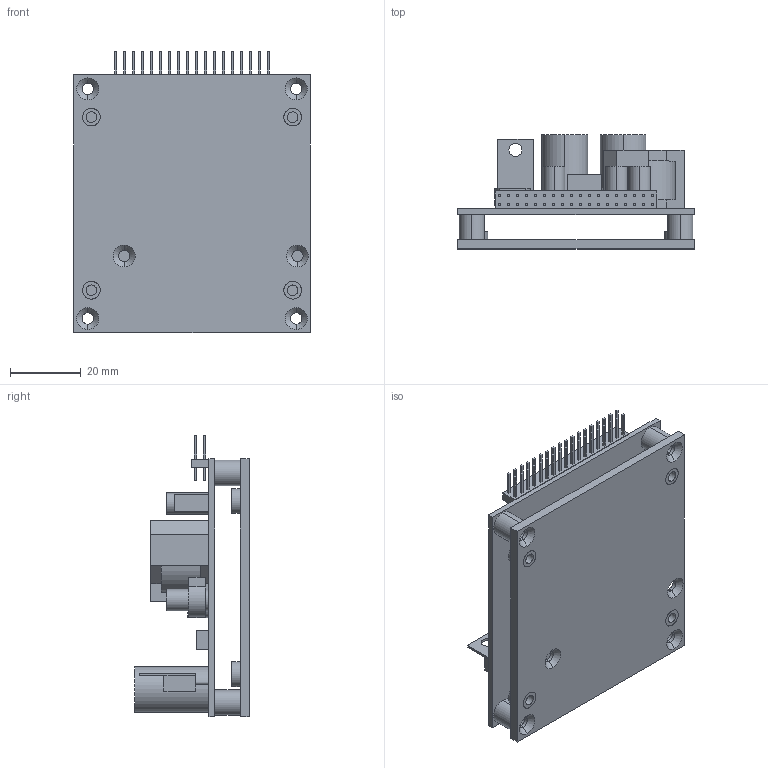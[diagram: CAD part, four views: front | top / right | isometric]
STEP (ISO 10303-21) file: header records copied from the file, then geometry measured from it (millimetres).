
FILE_DESCRIPTION (( 'STEP AP214' ), '1' );
FILE_NAME ('UcD180 OEM 06xx.STEP', '2020-11-17T13:04:34', ( '' ), ( '' ), 'SwSTEP 2.0', 'SolidWorks 2017', '' );
FILE_SCHEMA (( 'AUTOMOTIVE_DESIGN' ));
Length unit declared in the file: millimetre
Products named in the file (4): UcD180OEM SINK R1; UcD180 OEM 06xx; Push-in nut; UcD180 OEM B06
Assembly tree (6 placements, depth 2):
  UcD180 OEM 06xx
    UcD180 OEM B06
    UcD180OEM SINK R1
    Push-in nut  x4
Bounding box: 67 x 32.4 x 79.63 mm (x, y, z)
Volume: 36248.4 mm3; surface area: 29350.7 mm2
Topology: 7 solids, 7 shells, 549 faces, 1309 edges, 868 vertices
Faces by surface type: plane 451, cylinder 86, cone 12
Entity records: 20327 total; most frequent: CARTESIAN_POINT 2618, ORIENTED_EDGE 2510, DIRECTION 2465, EDGE_CURVE 1255, LINE 1107, VECTOR 1107, VERTEX_POINT 832, AXIS2_PLACEMENT_3D 679
